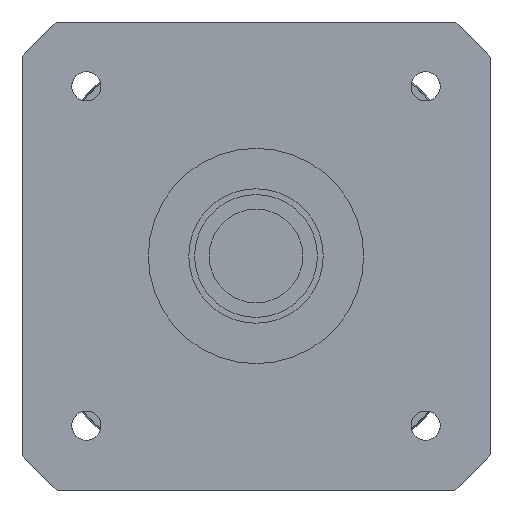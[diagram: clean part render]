
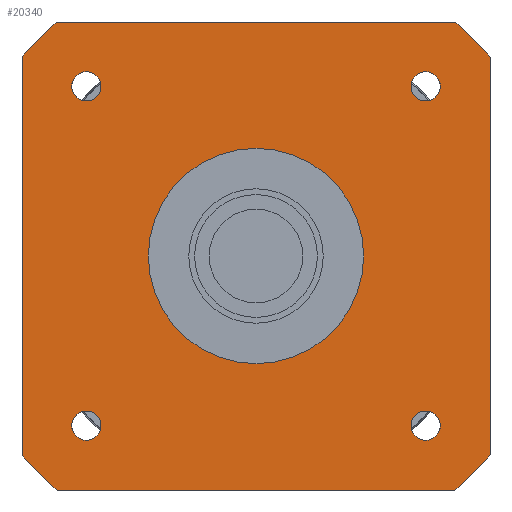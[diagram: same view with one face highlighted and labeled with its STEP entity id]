
A CAD part, left-side view. The second image highlights one B-rep face of the part: STEP entity #20340.
In plain terms, the highlighted planar face has unit normal (-1, 0, 0) as drawn and (0, 0, -1) by its records, which use the part's own axes.
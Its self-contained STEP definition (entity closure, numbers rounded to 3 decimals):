
#13850=CARTESIAN_POINT('',(-34.004,-40.,-44.));
#13860=VERTEX_POINT('',#13850);
#14010=CARTESIAN_POINT('',(34.004,-40.,-44.));
#14020=VERTEX_POINT('',#14010);
#14050=CARTESIAN_POINT('',(-40.,-40.,-44.));
#14060=DIRECTION('',(1.,0.,0.));
#14070=VECTOR('',#14060,1000.);
#14080=LINE('',#14050,#14070);
#14090=EDGE_CURVE('',#13860,#14020,#14080,.T.);
#18350=CARTESIAN_POINT('',(28.998,-26.498,-44.));
#18360=VERTEX_POINT('',#18350);
#18720=CARTESIAN_POINT('',(28.998,-31.498,-44.));
#18730=VERTEX_POINT('',#18720);
#18760=CARTESIAN_POINT('',(28.998,-28.998,-44.));
#18770=DIRECTION('',(0.,0.,-1.));
#18780=DIRECTION('',(1.,0.,0.));
#18790=AXIS2_PLACEMENT_3D('',#18760,#18770,#18780);
#18800=CIRCLE('',#18790,2.5);
#18810=CARTESIAN_POINT('',(31.498,-28.998,-44.));
#18820=VERTEX_POINT('',#18810);
#18830=EDGE_CURVE('',#18820,#18730,#18800,.T.);
#18850=EDGE_CURVE('',#18360,#18820,#18800,.T.);
#18900=CARTESIAN_POINT('',(40.,40.,-44.));
#18910=DIRECTION('',(0.,0.,1.));
#18920=DIRECTION('',(0.,1.,0.));
#18930=AXIS2_PLACEMENT_3D('',#18900,#18910,#18920);
#18940=PLANE('',#18930);
#18950=CARTESIAN_POINT('',(28.998,28.998,-44.));
#18960=DIRECTION('',(0.,0.,-1.));
#18970=DIRECTION('',(1.,0.,0.));
#18980=AXIS2_PLACEMENT_3D('',#18950,#18960,#18970);
#18990=CIRCLE('',#18980,2.5);
#19000=CARTESIAN_POINT('',(31.498,28.998,-44.));
#19010=VERTEX_POINT('',#19000);
#19020=CARTESIAN_POINT('',(28.998,26.498,-44.));
#19030=VERTEX_POINT('',#19020);
#19040=EDGE_CURVE('',#19010,#19030,#18990,.T.);
#19050=ORIENTED_EDGE('',*,*,#19040,.F.);
#19060=CARTESIAN_POINT('',(28.998,31.498,-44.));
#19070=VERTEX_POINT('',#19060);
#19080=EDGE_CURVE('',#19030,#19070,#18990,.T.);
#19090=ORIENTED_EDGE('',*,*,#19080,.F.);
#19100=EDGE_CURVE('',#19070,#19010,#18990,.T.);
#19110=ORIENTED_EDGE('',*,*,#19100,.F.);
#19120=EDGE_LOOP('',(#19110,#19090,#19050));
#19130=FACE_BOUND('',#19120,.T.);
#19140=CARTESIAN_POINT('',(-28.998,28.998,-44.));
#19150=DIRECTION('',(0.,0.,-1.));
#19160=DIRECTION('',(1.,0.,0.));
#19170=AXIS2_PLACEMENT_3D('',#19140,#19150,#19160);
#19180=CIRCLE('',#19170,2.5);
#19190=CARTESIAN_POINT('',(-26.498,28.998,-44.));
#19200=VERTEX_POINT('',#19190);
#19210=CARTESIAN_POINT('',(-28.998,26.498,-44.));
#19220=VERTEX_POINT('',#19210);
#19230=EDGE_CURVE('',#19200,#19220,#19180,.T.);
#19240=ORIENTED_EDGE('',*,*,#19230,.F.);
#19250=CARTESIAN_POINT('',(-28.998,31.498,-44.));
#19260=VERTEX_POINT('',#19250);
#19270=EDGE_CURVE('',#19220,#19260,#19180,.T.);
#19280=ORIENTED_EDGE('',*,*,#19270,.F.);
#19290=EDGE_CURVE('',#19260,#19200,#19180,.T.);
#19300=ORIENTED_EDGE('',*,*,#19290,.F.);
#19310=EDGE_LOOP('',(#19300,#19280,#19240));
#19320=FACE_BOUND('',#19310,.T.);
#19330=CARTESIAN_POINT('',(0.,0.,-44.));
#19340=DIRECTION('',(0.,0.,1.));
#19350=DIRECTION('',(0.,-1.,0.));
#19360=AXIS2_PLACEMENT_3D('',#19330,#19340,#19350);
#19370=CIRCLE('',#19360,18.4);
#19380=CARTESIAN_POINT('',(0.,-18.4,-44.));
#19390=VERTEX_POINT('',#19380);
#19400=CARTESIAN_POINT('',(0.,18.4,-44.));
#19410=VERTEX_POINT('',#19400);
#19420=EDGE_CURVE('',#19390,#19410,#19370,.T.);
#19430=ORIENTED_EDGE('',*,*,#19420,.T.);
#19440=EDGE_CURVE('',#19410,#19390,#19370,.T.);
#19450=ORIENTED_EDGE('',*,*,#19440,.T.);
#19460=EDGE_LOOP('',(#19450,#19430));
#19470=FACE_BOUND('',#19460,.T.);
#19480=CARTESIAN_POINT('',(-28.998,-28.998,-44.));
#19490=DIRECTION('',(0.,0.,-1.));
#19500=DIRECTION('',(1.,0.,0.));
#19510=AXIS2_PLACEMENT_3D('',#19480,#19490,#19500);
#19520=CIRCLE('',#19510,2.5);
#19530=CARTESIAN_POINT('',(-26.498,-28.998,-44.));
#19540=VERTEX_POINT('',#19530);
#19550=CARTESIAN_POINT('',(-28.998,-31.498,-44.));
#19560=VERTEX_POINT('',#19550);
#19570=EDGE_CURVE('',#19540,#19560,#19520,.T.);
#19580=ORIENTED_EDGE('',*,*,#19570,.F.);
#19590=CARTESIAN_POINT('',(-28.998,-26.498,-44.));
#19600=VERTEX_POINT('',#19590);
#19610=EDGE_CURVE('',#19560,#19600,#19520,.T.);
#19620=ORIENTED_EDGE('',*,*,#19610,.F.);
#19630=EDGE_CURVE('',#19600,#19540,#19520,.T.);
#19640=ORIENTED_EDGE('',*,*,#19630,.F.);
#19650=EDGE_LOOP('',(#19640,#19620,#19580));
#19660=FACE_BOUND('',#19650,.T.);
#19670=ORIENTED_EDGE('',*,*,#18830,.F.);
#19680=EDGE_CURVE('',#18730,#18360,#18800,.T.);
#19690=ORIENTED_EDGE('',*,*,#19680,.F.);
#19700=ORIENTED_EDGE('',*,*,#18850,.F.);
#19710=EDGE_LOOP('',(#19700,#19690,#19670));
#19720=FACE_BOUND('',#19710,.T.);
#19730=CARTESIAN_POINT('',(0.,0.,
-44.));
#19740=DIRECTION('',(0.,0.,1.));
#19750=DIRECTION('',(1.,0.,0.));
#19760=AXIS2_PLACEMENT_3D('',#19730,#19740,#19750);
#19770=CIRCLE('',#19760,52.5);
#19780=CARTESIAN_POINT('',(-34.004,40.,-44.));
#19790=VERTEX_POINT('',#19780);
#19800=CARTESIAN_POINT('',(-40.,34.004,-44.));
#19810=VERTEX_POINT('',#19800);
#19820=EDGE_CURVE('',#19790,#19810,#19770,.T.);
#19830=ORIENTED_EDGE('',*,*,#19820,.F.);
#19840=CARTESIAN_POINT('',(-40.,40.,-44.));
#19850=DIRECTION('',(0.,-1.,0.));
#19860=VECTOR('',#19850,1000.);
#19870=LINE('',#19840,#19860);
#19880=CARTESIAN_POINT('',(-40.,-34.004,-44.));
#19890=VERTEX_POINT('',#19880);
#19900=EDGE_CURVE('',#19810,#19890,#19870,.T.);
#19910=ORIENTED_EDGE('',*,*,#19900,.F.);
#19920=CARTESIAN_POINT('',(0.,0.,
-44.));
#19930=DIRECTION('',(0.,0.,1.));
#19940=DIRECTION('',(1.,0.,0.));
#19950=AXIS2_PLACEMENT_3D('',#19920,#19930,#19940);
#19960=CIRCLE('',#19950,52.5);
#19970=EDGE_CURVE('',#19890,#13860,#19960,.T.);
#19980=ORIENTED_EDGE('',*,*,#19970,.F.);
#19990=ORIENTED_EDGE('',*,*,#14090,.F.);
#20000=CARTESIAN_POINT('',(0.,0.,
-44.));
#20010=DIRECTION('',(0.,0.,1.));
#20020=DIRECTION('',(1.,0.,0.));
#20030=AXIS2_PLACEMENT_3D('',#20000,#20010,#20020);
#20040=CIRCLE('',#20030,52.5);
#20050=CARTESIAN_POINT('',(40.,-34.004,-44.));
#20060=VERTEX_POINT('',#20050);
#20070=EDGE_CURVE('',#14020,#20060,#20040,.T.);
#20080=ORIENTED_EDGE('',*,*,#20070,.F.);
#20090=CARTESIAN_POINT('',(40.,-40.,-44.));
#20100=DIRECTION('',(0.,1.,0.));
#20110=VECTOR('',#20100,1000.);
#20120=LINE('',#20090,#20110);
#20130=CARTESIAN_POINT('',(40.,34.004,-44.));
#20140=VERTEX_POINT('',#20130);
#20150=EDGE_CURVE('',#20060,#20140,#20120,.T.);
#20160=ORIENTED_EDGE('',*,*,#20150,.F.);
#20170=CARTESIAN_POINT('',(0.,0.,
-44.));
#20180=DIRECTION('',(0.,0.,1.));
#20190=DIRECTION('',(1.,0.,0.));
#20200=AXIS2_PLACEMENT_3D('',#20170,#20180,#20190);
#20210=CIRCLE('',#20200,52.5);
#20220=CARTESIAN_POINT('',(34.004,40.,-44.));
#20230=VERTEX_POINT('',#20220);
#20240=EDGE_CURVE('',#20140,#20230,#20210,.T.);
#20250=ORIENTED_EDGE('',*,*,#20240,.F.);
#20260=CARTESIAN_POINT('',(40.,40.,-44.));
#20270=DIRECTION('',(-1.,0.,0.));
#20280=VECTOR('',#20270,1000.);
#20290=LINE('',#20260,#20280);
#20300=EDGE_CURVE('',#20230,#19790,#20290,.T.);
#20310=ORIENTED_EDGE('',*,*,#20300,.F.);
#20320=EDGE_LOOP('',(#20310,#20250,#20160,#20080,#19990,#19980,#19910,
#19830));
#20330=FACE_OUTER_BOUND('',#20320,.T.);
#20340=ADVANCED_FACE('',(#19130,#19320,#19470,#19660,#19720,#20330),
#18940,.F.);
